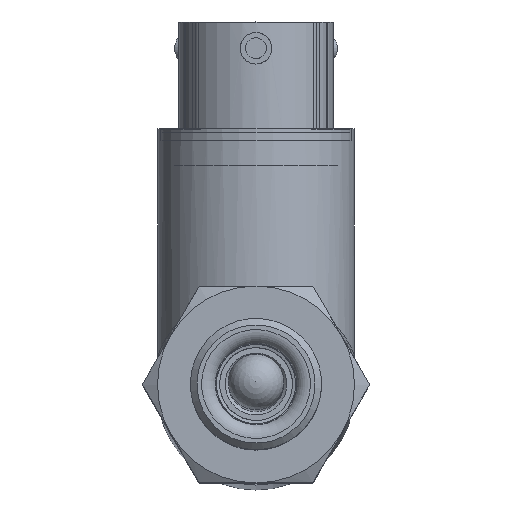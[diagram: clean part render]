
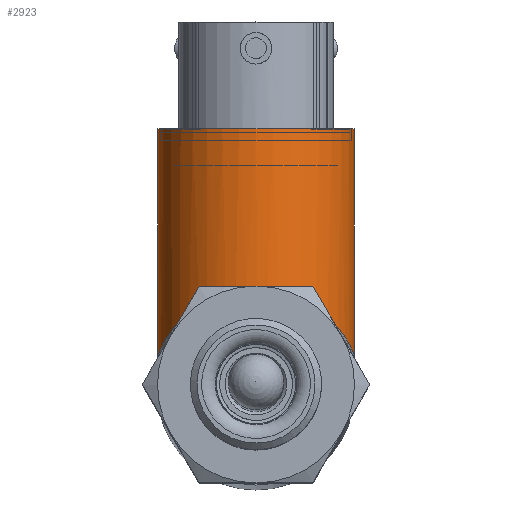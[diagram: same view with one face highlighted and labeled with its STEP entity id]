
A CAD part, top view. The second image highlights one B-rep face of the part: STEP entity #2923.
In plain terms, the highlighted cylindrical face has radius 9.525 mm (diameter 19.05 mm), a full revolution.
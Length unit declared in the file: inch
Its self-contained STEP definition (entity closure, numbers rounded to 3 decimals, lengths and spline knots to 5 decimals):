
#70=B_SPLINE_CURVE_WITH_KNOTS('',3,(#6882,#6883,#6884,#6885,#6886,#6887,
#6888,#6889,#6890,#6891,#6892,#6893,#6894,#6895,#6896,#6897,#6898,#6899,
#6900,#6901,#6902,#6903,#6904,#6905,#6906,#6907,#6908,#6909,#6910,#6911,
#6912),.UNSPECIFIED.,.F.,.F.,(4,1,1,1,1,1,1,1,1,1,1,1,1,1,1,1,1,1,1,1,1,
1,1,1,1,1,1,1,4),(-9.63701,-9.40756,-9.17811,
-8.7192,-8.41326,-8.26029,-8.10733,
-8.03084,-7.95436,-7.87787,-7.80139,
-7.49545,-7.18952,-6.88358,-6.57764,
-6.27171,-5.96577,-5.65983,-5.35389,-5.04796,
-4.89499,-4.81851,-4.74202,-4.58905,
-4.43608,-4.13015,-3.67124,-3.44179,
-3.21234),.UNSPECIFIED.);
#335=FACE_OUTER_BOUND('',#554,.T.);
#554=EDGE_LOOP('',(#2070,#2071,#2072,#2073));
#764=LINE('',#6962,#900);
#900=VECTOR('',#3880,0.375);
#1075=CIRCLE('',#3332,0.375);
#1282=VERTEX_POINT('',#6848);
#1286=VERTEX_POINT('',#6961);
#1573=EDGE_CURVE('',#1282,#1282,#70,.T.);
#1576=EDGE_CURVE('',#1286,#1282,#764,.T.);
#1577=EDGE_CURVE('',#1286,#1286,#1075,.T.);
#2070=ORIENTED_EDGE('',*,*,#1576,.F.);
#2071=ORIENTED_EDGE('',*,*,#1577,.F.);
#2072=ORIENTED_EDGE('',*,*,#1576,.T.);
#2073=ORIENTED_EDGE('',*,*,#1573,.F.);
#2653=CYLINDRICAL_SURFACE('',#3331,0.375);
#2923=ADVANCED_FACE('',(#335),#2653,.T.);
#3331=AXIS2_PLACEMENT_3D('',#6960,#3878,#3879);
#3332=AXIS2_PLACEMENT_3D('',#6963,#3881,#3882);
#3878=DIRECTION('center_axis',(0.,1.,0.));
#3879=DIRECTION('ref_axis',(0.,0.,1.));
#3880=DIRECTION('',(0.,-1.,0.));
#3881=DIRECTION('center_axis',(0.,1.,0.));
#3882=DIRECTION('ref_axis',(0.,0.,1.));
#6848=CARTESIAN_POINT('',(0.,0.3875,-5.335));
#6882=CARTESIAN_POINT('Ctrl Pts',(0.,0.3875,
-5.335));
#6883=CARTESIAN_POINT('Ctrl Pts',(0.03115,0.3875,
-5.335));
#6884=CARTESIAN_POINT('Ctrl Pts',(0.09334,0.38036,
-5.32713));
#6885=CARTESIAN_POINT('Ctrl Pts',(0.20461,0.34112,-5.28343));
#6886=CARTESIAN_POINT('Ctrl Pts',(0.29321,0.27239,-5.20526));
#6887=CARTESIAN_POINT('Ctrl Pts',(0.3437,0.20219,-5.11674));
#6888=CARTESIAN_POINT('Ctrl Pts',(0.36561,0.15993,-5.04931));
#6889=CARTESIAN_POINT('Ctrl Pts',(0.37367,0.1404,-5.00157));
#6890=CARTESIAN_POINT('Ctrl Pts',(0.37544,0.13578,-4.95998));
#6891=CARTESIAN_POINT('Ctrl Pts',(0.37411,0.13925,-4.92887));
#6892=CARTESIAN_POINT('Ctrl Pts',(0.37043,0.14824,-4.89924));
#6893=CARTESIAN_POINT('Ctrl Pts',(0.35903,0.17393,-4.84389));
#6894=CARTESIAN_POINT('Ctrl Pts',(0.32973,0.22598,-4.77212));
#6895=CARTESIAN_POINT('Ctrl Pts',(0.26717,0.29413,-4.68986));
#6896=CARTESIAN_POINT('Ctrl Pts',(0.17871,0.35264,-4.62367));
#6897=CARTESIAN_POINT('Ctrl Pts',(0.06402,0.38891,
-4.58343));
#6898=CARTESIAN_POINT('Ctrl Pts',(-0.06405,0.38899,
-4.58331));
#6899=CARTESIAN_POINT('Ctrl Pts',(-0.17868,0.35265,-4.62371));
#6900=CARTESIAN_POINT('Ctrl Pts',(-0.26718,0.29408,
-4.68977));
#6901=CARTESIAN_POINT('Ctrl Pts',(-0.32974,0.226,
-4.77227));
#6902=CARTESIAN_POINT('Ctrl Pts',(-0.36229,0.16812,-4.85174));
#6903=CARTESIAN_POINT('Ctrl Pts',(-0.37368,0.14034,
-4.91842));
#6904=CARTESIAN_POINT('Ctrl Pts',(-0.37544,0.13579,
-4.96003));
#6905=CARTESIAN_POINT('Ctrl Pts',(-0.37367,0.1404,
-5.00157));
#6906=CARTESIAN_POINT('Ctrl Pts',(-0.3656,0.15994,
-5.04934));
#6907=CARTESIAN_POINT('Ctrl Pts',(-0.34369,0.20218,
-5.11674));
#6908=CARTESIAN_POINT('Ctrl Pts',(-0.2932,0.2724,
-5.20527));
#6909=CARTESIAN_POINT('Ctrl Pts',(-0.20461,0.34112,
-5.28342));
#6910=CARTESIAN_POINT('Ctrl Pts',(-0.09334,0.38036,
-5.32713));
#6911=CARTESIAN_POINT('Ctrl Pts',(-0.03115,0.3875,
-5.335));
#6912=CARTESIAN_POINT('Ctrl Pts',(0.,0.3875,
-5.335));
#6960=CARTESIAN_POINT('Origin',(0.,0.47,
-4.96));
#6961=CARTESIAN_POINT('',(0.,1.,-5.335));
#6962=CARTESIAN_POINT('',(0.,0.47,-5.335));
#6963=CARTESIAN_POINT('Origin',(0.,1.,
-4.96));
